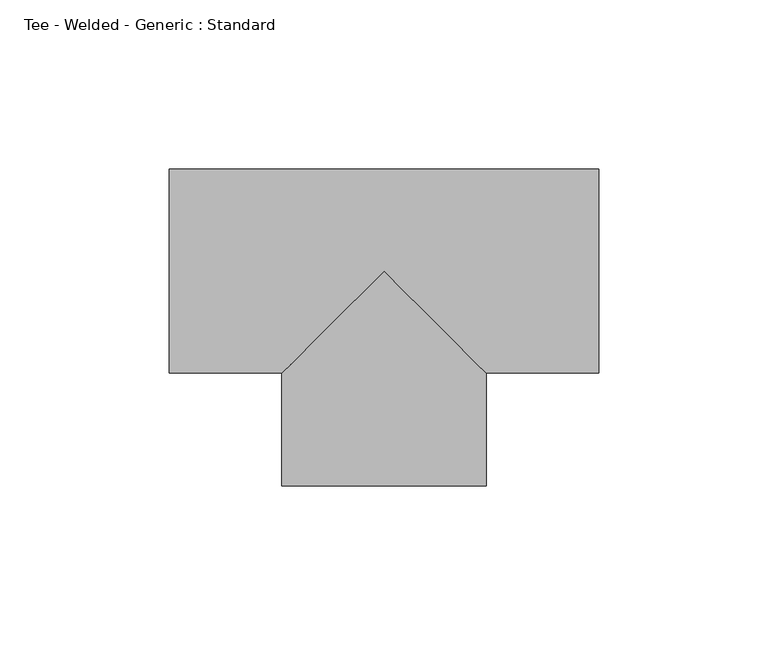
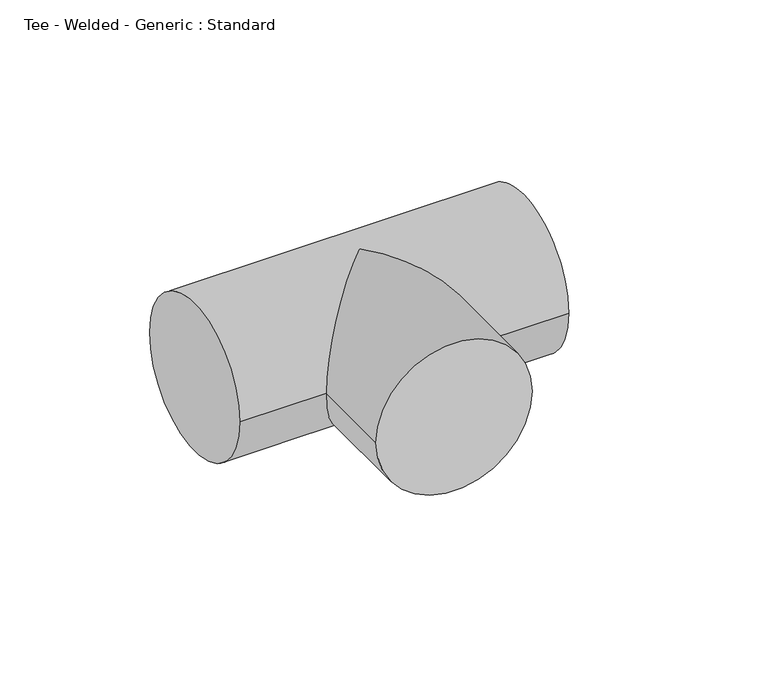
"""IFC4 building model written with IfcOpenShell, lengths in millimetres: pipe fitting geometry, Tee - Welded - Generic : Standard."""

from ifc_helpers import new_model, si_unit, frame, origin, place, context, project, spatial, circle_curve, ellipse_curve, source, transform, mapped, element, save
from ifc_brep_helpers import plane_surface, cylinder_surface, advanced_brep


def tee_welded_generic_standard_70e454bb(model_context):
    return source(origin(), model_context, "Body", "AdvancedBrep", [
        advanced_brep(
        [(-63.5, -30.1625, 0.0), (-63.5, 30.1625, 0.0), (63.5, -30.1625, 0.0), (63.5, 30.1625, 0.0), (-30.1623237, -30.1625, 0.0), (0.0, 0.0, 30.1625), (30.1626763, -30.1625, 0.0), (0.0, 0.0, -30.1625), (-30.1621288, -63.5001763, 0.0), (30.1628712, -63.4998237, 0.0)],
        [
            (0, 1, circle_curve(frame((-63.5, 0.0, 0.0), z_axis=(-1.0, 0.0, 0.0), x_axis=(0.0, 1.0, 0.0)), 30.1625)),
            (1, 0, circle_curve(frame((-63.5, 0.0, 0.0), z_axis=(-1.0, 0.0, 0.0), x_axis=(0.0, 1.0, 0.0)), 30.1625)),
            (2, 3, circle_curve(frame((63.5, 0.0, 0.0), z_axis=(1.0, 0.0, 0.0), x_axis=(0.0, 1.0, 0.0)), 30.1625)),
            (3, 2, circle_curve(frame((63.5, 0.0, 0.0), z_axis=(1.0, 0.0, 0.0), x_axis=(0.0, 1.0, 0.0)), 30.1625)),
            (0, 4),
            (4, 5, ellipse_curve(frame((0.0, 0.0, 0.0), z_axis=(-0.7071088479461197, 0.7071047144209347, 0.0), x_axis=(-0.7071047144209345, -0.7071088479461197, 0.0)), 42.6560919, 30.1625)),
            (5, 6, ellipse_curve(frame((0.0, 0.0, 0.0), z_axis=(0.7071047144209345, 0.7071088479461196, 0.0), x_axis=(-0.7071088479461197, 0.7071047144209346, 0.0)), 42.6563413, 30.1625)),
            (6, 2),
            (3, 1),
            (6, 7, ellipse_curve(frame((0.0, 0.0, 0.0), z_axis=(0.7071047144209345, 0.7071088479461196, 0.0), x_axis=(-0.7071088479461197, 0.7071047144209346, 0.0)), 42.6563413, 30.1625)),
            (7, 4, ellipse_curve(frame((0.0, 0.0, 0.0), z_axis=(-0.7071088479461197, 0.7071047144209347, 0.0), x_axis=(-0.7071047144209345, -0.7071088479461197, 0.0)), 42.6560919, 30.1625)),
            (8, 9, circle_curve(frame((0.0003712, -63.5, 0.0), z_axis=(5.84568738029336e-06, -0.9999999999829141, 0.0), x_axis=(0.9999999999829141, 5.84568738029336e-06, 0.0)), 30.1625)),
            (9, 8, circle_curve(frame((0.0003712, -63.5, 0.0), z_axis=(5.84568738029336e-06, -0.9999999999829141, 0.0), x_axis=(0.9999999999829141, 5.84568738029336e-06, 0.0)), 30.1625)),
            (9, 6),
            (4, 8),
        ],
        [
            plane_surface(frame((-63.5, 0.0, 0.0), z_axis=(-1.0, 0.0, 0.0), x_axis=(0.0, 0.0, 1.0))),
            plane_surface(frame((63.5, 0.0, 0.0), z_axis=(1.0, 0.0, 0.0), x_axis=(0.0, 0.0, 1.0))),
            cylinder_surface(frame((-63.5, 0.0, 0.0), z_axis=(-1.0, 0.0, 0.0), x_axis=(0.0, 1.0, 0.0)), 30.1625),
            plane_surface(frame((0.0003712, -63.5, 0.0), z_axis=(5.84568738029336e-06, -0.9999999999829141, 0.0), x_axis=(0.0, 0.0, 1.0))),
            cylinder_surface(frame((0.0, 0.0, 0.0), z_axis=(-5.84568738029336e-06, 0.9999999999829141, 0.0), x_axis=(0.9999999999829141, 5.84568738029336e-06, 0.0)), 30.1625),
        ],
        [
            (0, [[1, 2]]),
            (1, [[3, 4]]),
            (2, [[-1, 5, 6, 7, 8, -4, 9]]),
            (2, [[-2, -9, -3, -8, 10, 11, -5]]),
            (3, [[12, 13]]),
            (4, [[-13, 14, -7, -6, 15]]),
            (4, [[-12, -15, -11, -10, -14]]),
        ],
    ),
    ])


if __name__ == "__main__":
    model = new_model("IFC4")
    model_context = context("Model", 3, world=origin())
    ifc_project = project(units=[si_unit("LENGTHUNIT", "METRE", prefix="MILLI")], contexts=[model_context])
    site = spatial("IfcSite", under=ifc_project)
    building = spatial("IfcBuilding", under=site)
    placement = place(None, origin())
    tee_welded_generic_standard_shape = tee_welded_generic_standard_70e454bb(model_context)
    element("IfcPipeFitting", 1, ObjectType="Tee - Welded - Generic : Standard", at=placement, inside=building, context=model_context, shape_type="MappedRepresentation", body=[
        mapped(tee_welded_generic_standard_shape, transform((0.0, 0.0, 0.0), x_axis=(1.0, 0.0, 0.0), y_axis=(0.0, 1.0, 0.0), z_axis=(0.0, 0.0, 1.0))),
    ])
    save(model, "model.ifc")
